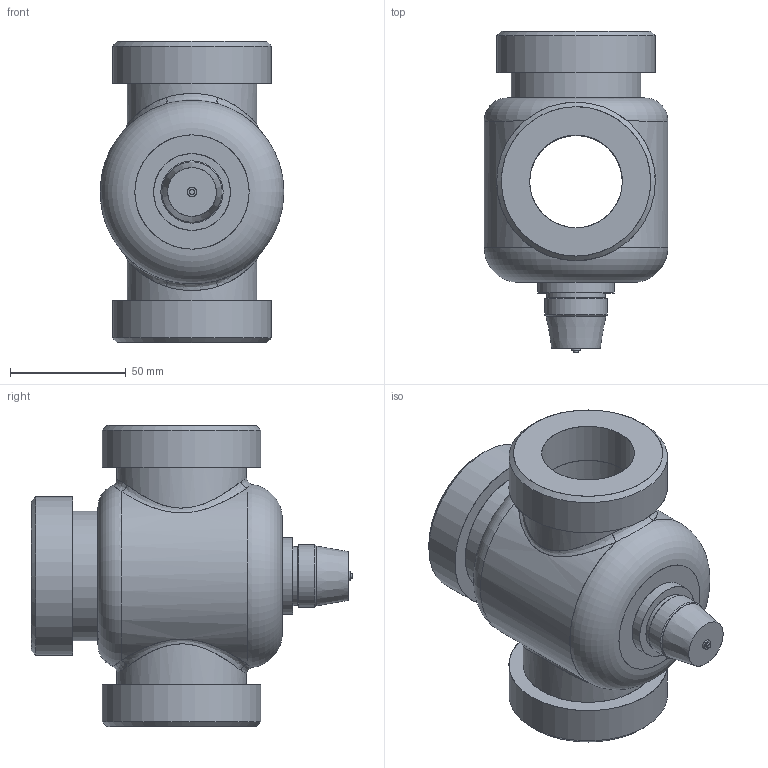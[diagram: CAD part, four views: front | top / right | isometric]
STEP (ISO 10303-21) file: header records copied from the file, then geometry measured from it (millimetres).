
FILE_DESCRIPTION(/* description */ (''),/* implementation_level */ '2;1');
FILE_NAME(/* name */ 'VXP45_DN40.stp',/* time_stamp */ '2013-10-01T15:27:42+02:00',/* author */ (''),/* organization */ (''),/* preprocessor_version */ 'ST-DEVELOPER v11',/* originating_system */ 'SIEMENS UGS NX 6.0',/* authorisation */ '');
FILE_SCHEMA (('AUTOMOTIVE_DESIGN { 1 0 10303 214 1 1 1 1 }'));
Length unit declared in the file: millimetre
Products named in the file (1): model3
Bounding box: 79.33 x 139 x 130 mm (x, y, z)
Surface area: 82837.5 mm2 (no closed solid volume)
Topology: 0 solids, 57 shells, 57 faces, 495 edges, 471 vertices
Faces by surface type: plane 23, cylinder 18, bspline 8, cone 6, torus 2
Full cylindrical faces by diameter (mm): 2 x1, 4 x1, 25.5 x1, 26.9 x1, 33.134 x1, 40 x5, 56 x3, 68.5 x3
Entity records: 8067 total; most frequent: CARTESIAN_POINT 4975, ORIENTED_EDGE 471, VERTEX_POINT 471, EDGE_CURVE 471, B_SPLINE_CURVE_WITH_KNOTS 395, DIRECTION 252, AXIS2_PLACEMENT_3D 126, EDGE_LOOP 92
